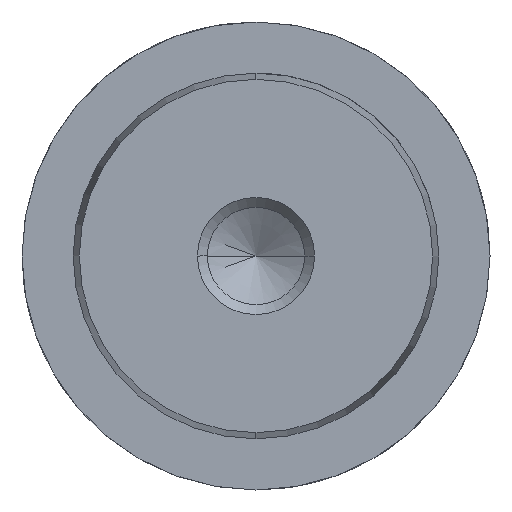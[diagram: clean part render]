
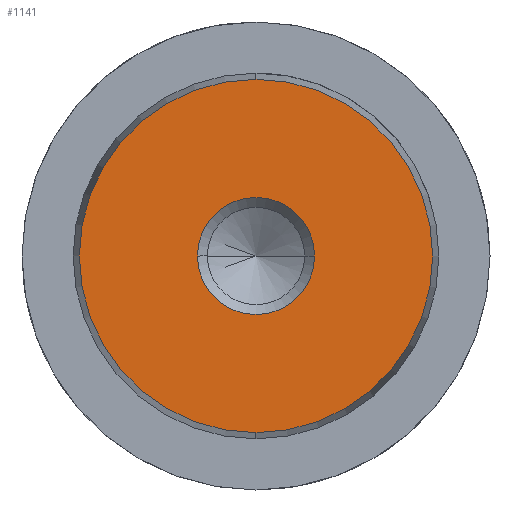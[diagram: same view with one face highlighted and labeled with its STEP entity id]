
A CAD part, left-side view. The second image highlights one B-rep face of the part: STEP entity #1141.
In plain terms, the highlighted planar face has unit normal (-1, 0, 0).
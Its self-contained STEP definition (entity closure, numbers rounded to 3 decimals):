
#1055=CARTESIAN_POINT('Vertex',(0.,0.,-12.078)) ;
#1058=CARTESIAN_POINT('Axis2P3D Location',(0.,0.,0.)) ;
#1062=CARTESIAN_POINT('Vertex',(0.,12.078,0.)) ;
#1065=CARTESIAN_POINT('Axis2P3D Location',(0.,0.,0.)) ;
#1069=CARTESIAN_POINT('Vertex',(0.,0.,12.078)) ;
#1091=CARTESIAN_POINT('Axis2P3D Location',(0.,0.,0.)) ;
#1095=CARTESIAN_POINT('Vertex',(0.,-12.078,0.)) ;
#1098=CARTESIAN_POINT('Axis2P3D Location',(0.,0.,0.)) ;
#1112=CARTESIAN_POINT('Axis2P3D Location',(0.,0.,0.)) ;
#1123=CARTESIAN_POINT('Axis2P3D Location',(0.,0.,0.)) ;
#1127=CARTESIAN_POINT('Vertex',(0.,4.,0.)) ;
#1129=CARTESIAN_POINT('Vertex',(0.,-4.,0.)) ;
#1132=CARTESIAN_POINT('Axis2P3D Location',(0.,0.,0.)) ;
#1059=DIRECTION('Axis2P3D Direction',(1.,-0.,0.)) ;
#1066=DIRECTION('Axis2P3D Direction',(1.,-0.,0.)) ;
#1092=DIRECTION('Axis2P3D Direction',(1.,0.,-0.)) ;
#1099=DIRECTION('Axis2P3D Direction',(1.,0.,-0.)) ;
#1113=DIRECTION('Axis2P3D Direction',(1.,0.,-0.)) ;
#1114=DIRECTION('Axis2P3D XDirection',(-0.,0.,-1.)) ;
#1124=DIRECTION('Axis2P3D Direction',(1.,0.,-0.)) ;
#1133=DIRECTION('Axis2P3D Direction',(1.,0.,-0.)) ;
#1060=AXIS2_PLACEMENT_3D('Circle Axis2P3D',#1058,#1059,$) ;
#1067=AXIS2_PLACEMENT_3D('Circle Axis2P3D',#1065,#1066,$) ;
#1093=AXIS2_PLACEMENT_3D('Circle Axis2P3D',#1091,#1092,$) ;
#1100=AXIS2_PLACEMENT_3D('Circle Axis2P3D',#1098,#1099,$) ;
#1115=AXIS2_PLACEMENT_3D('Plane Axis2P3D',#1112,#1113,#1114) ;
#1125=AXIS2_PLACEMENT_3D('Circle Axis2P3D',#1123,#1124,$) ;
#1134=AXIS2_PLACEMENT_3D('Circle Axis2P3D',#1132,#1133,$) ;
#1118=ORIENTED_EDGE('',*,*,#1064,.F.) ;
#1119=ORIENTED_EDGE('',*,*,#1102,.F.) ;
#1120=ORIENTED_EDGE('',*,*,#1097,.F.) ;
#1121=ORIENTED_EDGE('',*,*,#1071,.F.) ;
#1138=ORIENTED_EDGE('',*,*,#1131,.T.) ;
#1139=ORIENTED_EDGE('',*,*,#1136,.T.) ;
#1140=FACE_BOUND('',#1137,.T.) ;
#1141=ADVANCED_FACE('719-25x100',(#1122,#1140),#1116,.F.) ;
#1061=CIRCLE('generated circle',#1060,12.078) ;
#1068=CIRCLE('generated circle',#1067,12.078) ;
#1094=CIRCLE('generated circle',#1093,12.078) ;
#1101=CIRCLE('generated circle',#1100,12.078) ;
#1126=CIRCLE('generated circle',#1125,4.) ;
#1135=CIRCLE('generated circle',#1134,4.) ;
#1064=EDGE_CURVE('',#1056,#1063,#1061,.T.) ;
#1071=EDGE_CURVE('',#1063,#1070,#1068,.T.) ;
#1097=EDGE_CURVE('',#1070,#1096,#1094,.T.) ;
#1102=EDGE_CURVE('',#1096,#1056,#1101,.T.) ;
#1131=EDGE_CURVE('',#1128,#1130,#1126,.T.) ;
#1136=EDGE_CURVE('',#1130,#1128,#1135,.T.) ;
#1117=EDGE_LOOP('',(#1118,#1119,#1120,#1121)) ;
#1137=EDGE_LOOP('',(#1138,#1139)) ;
#1122=FACE_OUTER_BOUND('',#1117,.T.) ;
#1116=PLANE('Plane',#1115) ;
#1056=VERTEX_POINT('',#1055) ;
#1063=VERTEX_POINT('',#1062) ;
#1070=VERTEX_POINT('',#1069) ;
#1096=VERTEX_POINT('',#1095) ;
#1128=VERTEX_POINT('',#1127) ;
#1130=VERTEX_POINT('',#1129) ;
